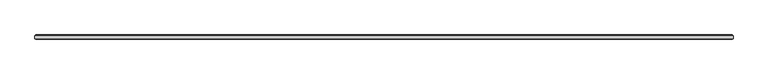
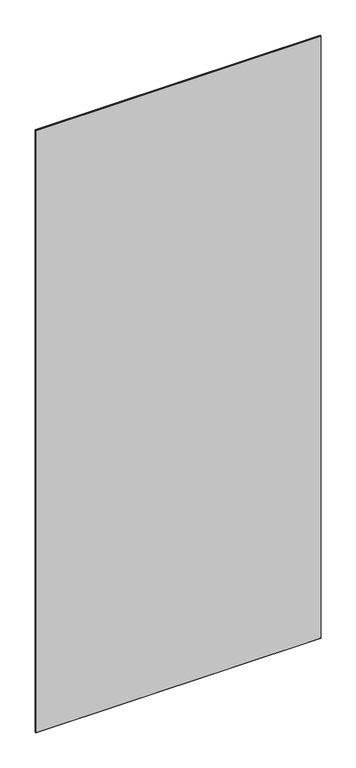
"""IFC4 building model written with IfcOpenShell, lengths in millimetres: plate geometry, 1-AMG-1-Панель одинарный витраж 8, 10 : Смещение 32 Толщина 8mm."""

from ifc_helpers import new_model, si_unit, origin, place, context, project, spatial, faceted_brep, source, transform, mapped, element, save


def plate_5bb275c1(model_context):
    return source(origin(), model_context, "Body", "Brep", [
        faceted_brep([(614.1853624, 29.5038347, 2722.8), (614.1853624, 34.4961653, 2722.8), (-609.1853624, 34.4961653, 2722.8), (-609.1853624, 29.5038347, 2722.8), (614.1853624, 34.4961653, -7.0), (614.1853624, 29.5038347, -7.0), (-609.1853624, 29.5038347, -7.0), (-609.1853624, 34.4961653, -7.0), (-607.6815277, 36.0, 2721.2961653), (612.6815277, 36.0, 2721.2961653), (612.6815277, 36.0, -5.5039422), (-607.6815277, 36.0, -5.5039422), (612.6815277, 28.0, 2721.2961653), (-607.6815277, 28.0, 2721.2961653), (-607.6815277, 28.0, -5.4961653), (612.6815277, 28.0, -5.4961653)], [[[0, 1, 2, 3]], [[4, 5, 6, 7]], [[8, 9, 10, 11]], [[3, 2, 7, 6]], [[12, 13, 14, 15]], [[1, 0, 5, 4]], [[1, 4, 10, 9]], [[5, 0, 12, 15]], [[7, 2, 8, 11]], [[3, 6, 14, 13]], [[0, 3, 13, 12]], [[2, 1, 9, 8]], [[6, 5, 15, 14]], [[4, 7, 11, 10]]]),
    ])


if __name__ == "__main__":
    model = new_model("IFC4")
    model_context = context("Model", 3, world=origin())
    ifc_project = project(units=[si_unit("LENGTHUNIT", "METRE", prefix="MILLI")], contexts=[model_context])
    site = spatial("IfcSite", under=ifc_project)
    building = spatial("IfcBuilding", under=site)
    placement = place(None, origin())
    plate_shape = plate_5bb275c1(model_context)
    element("IfcPlate", 1, ObjectType="1-AMG-1-Панель одинарный витраж 8, 10 : Смещение 32 Толщина 8mm", at=placement, inside=building, context=model_context, shape_type="MappedRepresentation", body=[
        mapped(plate_shape, transform((0.0, 0.0, 0.0), x_axis=(1.0, 0.0, 0.0), y_axis=(0.0, 1.0, 0.0), z_axis=(0.0, 0.0, 1.0))),
    ])
    save(model, "model.ifc")
